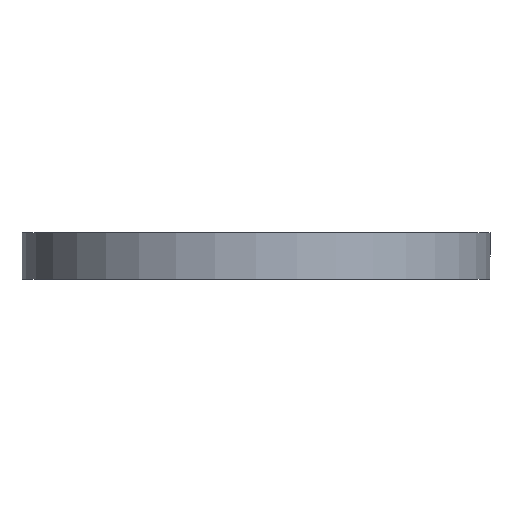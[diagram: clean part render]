
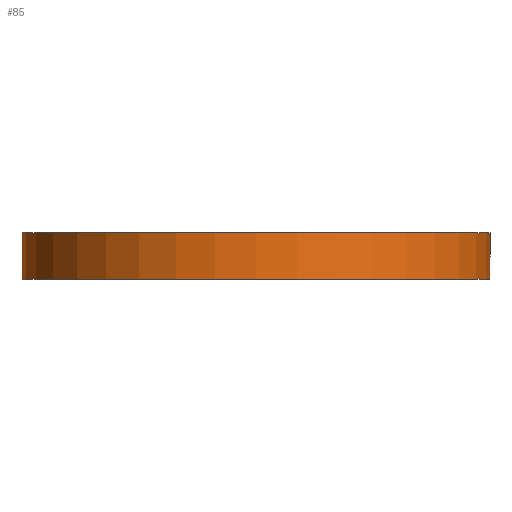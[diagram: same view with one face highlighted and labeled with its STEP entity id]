
A CAD part, front view. The second image highlights one B-rep face of the part: STEP entity #85.
In plain terms, the highlighted cylindrical face has radius 150 mm (diameter 300 mm), a partial arc.
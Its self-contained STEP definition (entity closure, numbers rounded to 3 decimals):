
#16 = EDGE_CURVE ( 'NONE', #739, #730, #114, .T. ) ;
#42 = FACE_OUTER_BOUND ( 'NONE', #743, .T. ) ;
#43 = CYLINDRICAL_SURFACE ( 'NONE', #63, 150. ) ;
#47 = CIRCLE ( 'NONE', #89, 150. ) ;
#62 = DIRECTION ( 'NONE',  ( 0., 0., 1. ) ) ;
#63 = AXIS2_PLACEMENT_3D ( 'NONE', #64, #62, #363 ) ;
#64 = CARTESIAN_POINT ( 'NONE',  ( 0., 0., -85. ) ) ;
#72 = EDGE_CURVE ( 'NONE', #501, #739, #799, .T. ) ;
#82 = VECTOR ( 'NONE', #801, 1000. ) ;
#85 = ADVANCED_FACE ( 'NONE', ( #42 ), #43, .T. ) ;
#89 = AXIS2_PLACEMENT_3D ( 'NONE', #299, #298, #296 ) ;
#108 = AXIS2_PLACEMENT_3D ( 'NONE', #751, #752, #753 ) ;
#114 = CIRCLE ( 'NONE', #108, 150. ) ;
#149 = CARTESIAN_POINT ( 'NONE',  ( -150., 0., 0. ) ) ;
#153 = CARTESIAN_POINT ( 'NONE',  ( 150., 0., -30. ) ) ;
#155 = CARTESIAN_POINT ( 'NONE',  ( 150., 0., 0. ) ) ;
#271 = DIRECTION ( 'NONE',  ( 0., 0., 1. ) ) ;
#294 = VECTOR ( 'NONE', #271, 1000. ) ;
#296 = DIRECTION ( 'NONE',  ( -1., 0., 0. ) ) ;
#298 = DIRECTION ( 'NONE',  ( 0., 0., -1. ) ) ;
#299 = CARTESIAN_POINT ( 'NONE',  ( 0., 0., -30. ) ) ;
#312 = CARTESIAN_POINT ( 'NONE',  ( -150., 0., -30. ) ) ;
#362 = LINE ( 'NONE', #536, #294 ) ;
#363 = DIRECTION ( 'NONE',  ( 1., 0., 0. ) ) ;
#450 = EDGE_CURVE ( 'NONE', #734, #730, #362, .T. ) ;
#469 = EDGE_CURVE ( 'NONE', #734, #501, #47, .T. ) ;
#501 = VERTEX_POINT ( 'NONE', #312 ) ;
#536 = CARTESIAN_POINT ( 'NONE',  ( 150., 0., -85. ) ) ;
#633 = ORIENTED_EDGE ( 'NONE', *, *, #72, .F. ) ;
#636 = ORIENTED_EDGE ( 'NONE', *, *, #469, .F. ) ;
#637 = ORIENTED_EDGE ( 'NONE', *, *, #450, .T. ) ;
#638 = ORIENTED_EDGE ( 'NONE', *, *, #16, .F. ) ;
#730 = VERTEX_POINT ( 'NONE', #155 ) ;
#734 = VERTEX_POINT ( 'NONE', #153 ) ;
#739 = VERTEX_POINT ( 'NONE', #149 ) ;
#743 = EDGE_LOOP ( 'NONE', ( #633, #636, #637, #638 ) ) ;
#751 = CARTESIAN_POINT ( 'NONE',  ( 0., 0., 0. ) ) ;
#752 = DIRECTION ( 'NONE',  ( 0., 0., 1. ) ) ;
#753 = DIRECTION ( 'NONE',  ( 1., 0., 0. ) ) ;
#799 = LINE ( 'NONE', #800, #82 ) ;
#800 = CARTESIAN_POINT ( 'NONE',  ( -150., 0., -85. ) ) ;
#801 = DIRECTION ( 'NONE',  ( 0., 0., 1. ) ) ;
